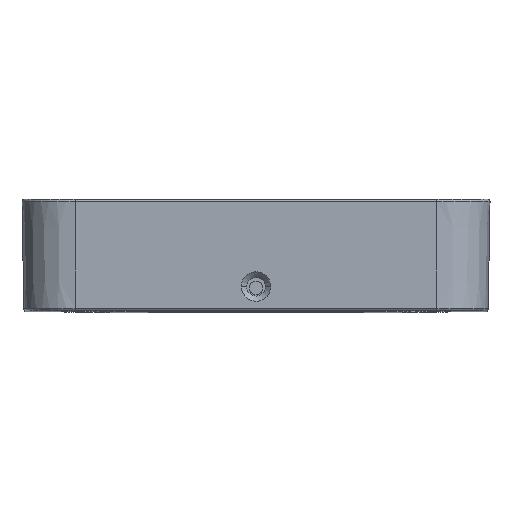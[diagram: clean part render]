
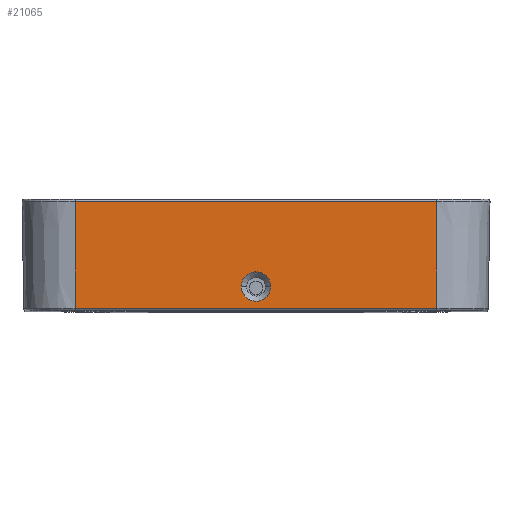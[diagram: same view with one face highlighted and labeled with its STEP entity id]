
A CAD part, top view. The second image highlights one B-rep face of the part: STEP entity #21065.
In plain terms, the highlighted planar face has unit normal (0, -0.018, 1).
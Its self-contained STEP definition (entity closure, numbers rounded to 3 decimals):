
#10395=DIRECTION('',(1.,0.,0.));
#10396=VECTOR('',#10395,68.);
#10397=CARTESIAN_POINT('',(-34.,-12.609,65.642));
#10398=LINE('',#10397,#10396);
#10414=DIRECTION('',(0.,-1.,-0.017));
#10415=VECTOR('',#10414,20.003);
#10416=CARTESIAN_POINT('',(-34.,7.391,65.991));
#10417=LINE('',#10416,#10415);
#10481=DIRECTION('',(-1.,0.,0.));
#10482=VECTOR('',#10481,68.);
#10483=CARTESIAN_POINT('',(34.,7.391,65.991));
#10484=LINE('',#10483,#10482);
#10582=DIRECTION('',(0.,1.,0.017));
#10583=VECTOR('',#10582,20.003);
#10584=CARTESIAN_POINT('',(34.,-12.609,65.642));
#10585=LINE('',#10584,#10583);
#10586=CARTESIAN_POINT('',(-2.762,-8.6,
65.712));
#10587=CARTESIAN_POINT('',(-2.758,-8.845,
65.708));
#10588=CARTESIAN_POINT('',(-2.687,-9.314,
65.7));
#10589=CARTESIAN_POINT('',(-2.402,-9.979,
65.688));
#10590=CARTESIAN_POINT('',(-1.958,-10.544,
65.678));
#10591=CARTESIAN_POINT('',(-1.385,-10.978,
65.67));
#10592=CARTESIAN_POINT('',(-0.715,-11.252,
65.666));
#10593=CARTESIAN_POINT('',(-0.245,-11.315,
65.665));
#10594=CARTESIAN_POINT('',(0.,-11.315,
65.665));
#10596=CARTESIAN_POINT('',(0.,-11.315,
65.665));
#10597=CARTESIAN_POINT('',(0.245,-11.315,
65.665));
#10598=CARTESIAN_POINT('',(0.715,-11.252,
65.666));
#10599=CARTESIAN_POINT('',(1.385,-10.978,
65.67));
#10600=CARTESIAN_POINT('',(1.958,-10.544,
65.678));
#10601=CARTESIAN_POINT('',(2.402,-9.979,
65.688));
#10602=CARTESIAN_POINT('',(2.687,-9.314,
65.7));
#10603=CARTESIAN_POINT('',(2.758,-8.845,
65.708));
#10604=CARTESIAN_POINT('',(2.762,-8.6,
65.712));
#10606=CARTESIAN_POINT('',(2.762,-8.6,
65.712));
#10607=CARTESIAN_POINT('',(2.767,-8.324,
65.717));
#10608=CARTESIAN_POINT('',(2.697,-7.798,
65.726));
#10609=CARTESIAN_POINT('',(2.37,-7.059,
65.739));
#10610=CARTESIAN_POINT('',(1.85,-6.448,
65.75));
#10611=CARTESIAN_POINT('',(1.175,-6.009,
65.757));
#10612=CARTESIAN_POINT('',(0.402,-5.78,
65.761));
#10613=CARTESIAN_POINT('',(-0.402,-5.78,
65.761));
#10614=CARTESIAN_POINT('',(-1.175,-6.009,
65.757));
#10615=CARTESIAN_POINT('',(-1.85,-6.448,
65.75));
#10616=CARTESIAN_POINT('',(-2.37,-7.059,
65.739));
#10617=CARTESIAN_POINT('',(-2.697,-7.798,
65.726));
#10618=CARTESIAN_POINT('',(-2.767,-8.324,
65.717));
#10619=CARTESIAN_POINT('',(-2.762,-8.6,
65.712));
#18266=CARTESIAN_POINT('',(34.,-12.609,65.642));
#18267=VERTEX_POINT('',#18266);
#18268=CARTESIAN_POINT('',(-34.,-12.609,65.642));
#18269=VERTEX_POINT('',#18268);
#18270=CARTESIAN_POINT('',(-34.,7.391,65.991));
#18272=VERTEX_POINT('',#18270);
#18306=CARTESIAN_POINT('',(34.,7.391,65.991));
#18307=VERTEX_POINT('',#18306);
#18334=VERTEX_POINT('',#10586);
#18335=VERTEX_POINT('',#10594);
#18336=VERTEX_POINT('',#10604);
#21046=CARTESIAN_POINT('',(-47.094,7.9,66.));
#21047=DIRECTION('',(0.,-0.017,1.));
#21048=DIRECTION('',(1.,0.,0.));
#21049=AXIS2_PLACEMENT_3D('',#21046,#21047,#21048);
#21050=PLANE('',#21049);
#21051=ORIENTED_EDGE('',*,*,#20859,.F.);
#21052=ORIENTED_EDGE('',*,*,#21041,.F.);
#21053=ORIENTED_EDGE('',*,*,#20761,.F.);
#21054=ORIENTED_EDGE('',*,*,#20787,.F.);
#21055=EDGE_LOOP('',(#21051,#21052,#21053,#21054));
#21056=FACE_OUTER_BOUND('',#21055,.F.);
#21058=ORIENTED_EDGE('',*,*,#21057,.T.);
#21060=ORIENTED_EDGE('',*,*,#21059,.T.);
#21062=ORIENTED_EDGE('',*,*,#21061,.T.);
#21063=EDGE_LOOP('',(#21058,#21060,#21062));
#21064=FACE_BOUND('',#21063,.F.);
#10595=B_SPLINE_CURVE_WITH_KNOTS('',3,(#10586,#10587,#10588,#10589,#10590,
#10591,#10592,#10593,#10594),.UNSPECIFIED.,.F.,.F.,(4,1,1,1,1,1,4),(0.,
0.167,0.333,0.5,0.667,0.833,
1.),.UNSPECIFIED.);
#10605=B_SPLINE_CURVE_WITH_KNOTS('',3,(#10596,#10597,#10598,#10599,#10600,
#10601,#10602,#10603,#10604),.UNSPECIFIED.,.F.,.F.,(4,1,1,1,1,1,4),(0.,
0.167,0.333,0.5,0.667,0.833,
1.),.UNSPECIFIED.);
#10620=B_SPLINE_CURVE_WITH_KNOTS('',3,(#10606,#10607,#10608,#10609,#10610,
#10611,#10612,#10613,#10614,#10615,#10616,#10617,#10618,#10619),.UNSPECIFIED.,
.F.,.F.,(4,1,1,1,1,1,1,1,1,1,1,4),(0.,0.091,0.182,
0.273,0.364,0.455,0.545,
0.636,0.727,0.818,0.909,1.),
.UNSPECIFIED.);
#20761=EDGE_CURVE('',#18269,#18267,#10398,.T.);
#20787=EDGE_CURVE('',#18272,#18269,#10417,.T.);
#20859=EDGE_CURVE('',#18307,#18272,#10484,.T.);
#21041=EDGE_CURVE('',#18267,#18307,#10585,.T.);
#21057=EDGE_CURVE('',#18334,#18335,#10595,.T.);
#21059=EDGE_CURVE('',#18335,#18336,#10605,.T.);
#21061=EDGE_CURVE('',#18336,#18334,#10620,.T.);
#21065=ADVANCED_FACE('',(#21056,#21064),#21050,.T.);
